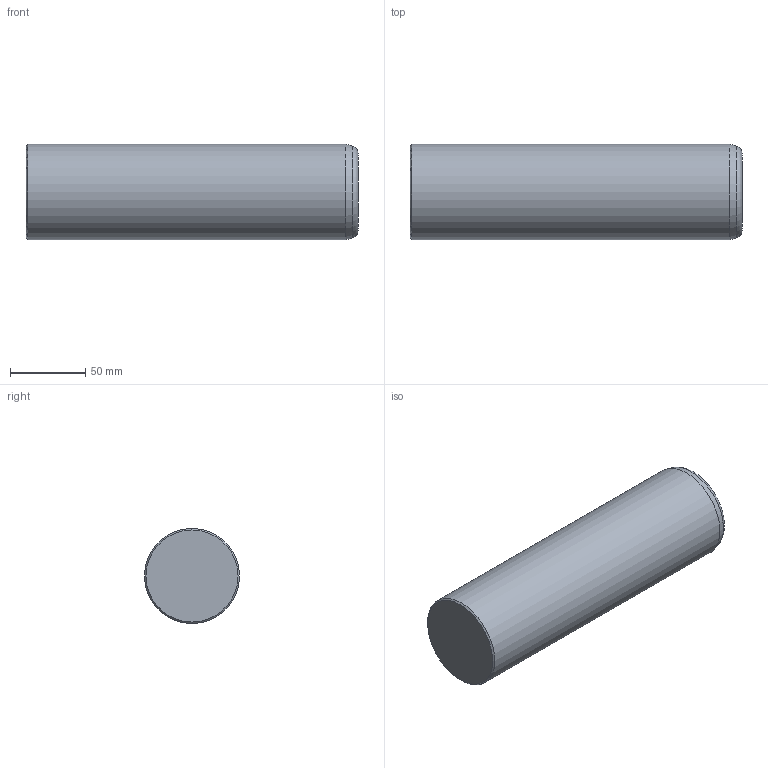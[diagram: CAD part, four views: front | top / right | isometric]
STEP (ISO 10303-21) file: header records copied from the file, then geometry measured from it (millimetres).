
FILE_DESCRIPTION(/* description */ ('Impex Ready, www.impex-ready.pl'),/* implementation_level */ '2;1');
FILE_NAME(/* name */ 'C:\Users\VIKKY\Nextcloud\SM\projekt 10 - części na stronę internetową\Pliki_3D_new\256 CIS Słup\256 CIS_STEP\CIS63220.ipt.step',/* time_stamp */ '2021-12-20T12:48:42+01:00',/* author */ ('SM'),/* organization */ (''),/* preprocessor_version */ 'ST-DEVELOPER v18.1',/* originating_system */ 'Autodesk Inventor 2021',/* authorisation */ '');
FILE_SCHEMA (('AUTOMOTIVE_DESIGN { 1 0 10303 214 3 1 1 }'));
Length unit declared in the file: millimetre
Products named in the file (1): CIS63220
Bounding box: 220 x 63 x 63 mm (x, y, z)
Volume: 683611.9 mm3; surface area: 49047.5 mm2
Topology: 1 solids, 1 shells, 6 faces, 12 edges, 8 vertices
Faces by surface type: cone 2, plane 2, torus 1, cylinder 1
Full cylindrical faces by diameter (mm): 63 x1
Entity records: 239 total; most frequent: DIRECTION 35, CARTESIAN_POINT 27, ORIENTED_EDGE 24, AXIS2_PLACEMENT_3D 16, EDGE_CURVE 12, CIRCLE 9, VERTEX_POINT 8, STYLED_ITEM 7
